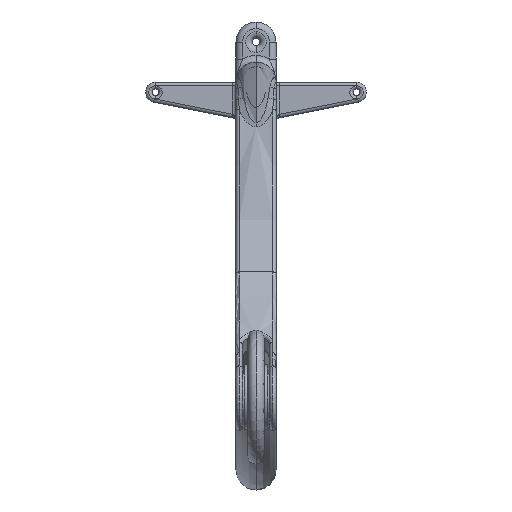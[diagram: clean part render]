
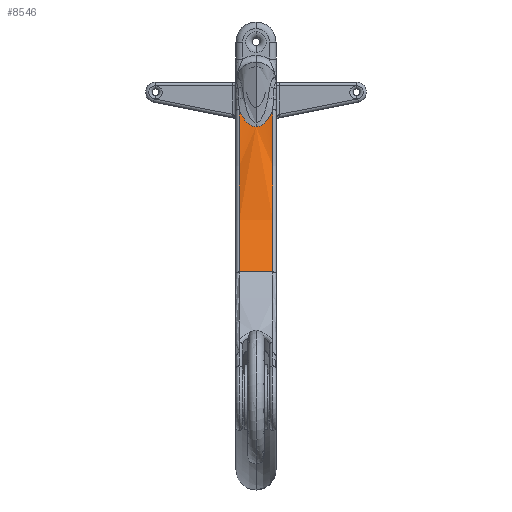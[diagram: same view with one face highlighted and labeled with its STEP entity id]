
A CAD part, front view. The second image highlights one B-rep face of the part: STEP entity #8546.
In plain terms, the highlighted cylindrical face has radius 59 mm (diameter 118 mm), a partial arc.
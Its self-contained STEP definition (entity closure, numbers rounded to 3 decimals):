
#296 = ORIENTED_EDGE ( 'NONE', *, *, #9531, .T. ) ;
#612 = CARTESIAN_POINT ( 'NONE',  ( -2.5, -57., -4. ) ) ;
#732 = CIRCLE ( 'NONE', #19920, 59. ) ;
#1113 = ORIENTED_EDGE ( 'NONE', *, *, #17224, .T. ) ;
#1598 = CARTESIAN_POINT ( 'NONE',  ( -0.159, 1.729, -9.651 ) ) ;
#1922 = ORIENTED_EDGE ( 'NONE', *, *, #21025, .T. ) ;
#3406 = CARTESIAN_POINT ( 'NONE',  ( -0.758, 1.747, -9.459 ) ) ;
#3872 = DIRECTION ( 'NONE',  ( 0., 0., -1. ) ) ;
#4433 = CARTESIAN_POINT ( 'NONE',  ( -2.5, -4.711, -31.329 ) ) ;
#4528 = CARTESIAN_POINT ( 'NONE',  ( 0.159, 1.729, -9.651 ) ) ;
#4930 = VERTEX_POINT ( 'NONE', #8683 ) ;
#5126 = CARTESIAN_POINT ( 'NONE',  ( -1.38, 1.789, -8.99 ) ) ;
#5240 = EDGE_CURVE ( 'NONE', #19241, #8141, #6548, .T. ) ;
#5704 = DIRECTION ( 'NONE',  ( -1., 0., 0. ) ) ;
#5855 = B_SPLINE_CURVE_WITH_KNOTS ( 'NONE', 3,
 ( #18523, #1598, #15187, #13557, #3406, #15266, #5126, #6856, #18677, #20355, #11561, #20724 ),
 .UNSPECIFIED., .F., .F.,
 ( 4, 2, 2, 2, 2, 4 ),
 ( 0., 0., 0.001, 0.002, 0.003, 0.004 ),
 .UNSPECIFIED. ) ;
#6326 = AXIS2_PLACEMENT_3D ( 'NONE', #14553, #7311, #11209 ) ;
#6379 = CARTESIAN_POINT ( 'NONE',  ( 1.948, 1.848, -8.242 ) ) ;
#6548 = CIRCLE ( 'NONE', #12935, 59. ) ;
#6856 = CARTESIAN_POINT ( 'NONE',  ( -1.777, 1.828, -8.506 ) ) ;
#6879 = LINE ( 'NONE', #18422, #18005 ) ;
#7311 = DIRECTION ( 'NONE',  ( 1., 0., 0. ) ) ;
#8082 = CARTESIAN_POINT ( 'NONE',  ( 1.48, 1.799, -8.868 ) ) ;
#8084 = CARTESIAN_POINT ( 'NONE',  ( -2.5, 1.917, -7.129 ) ) ;
#8141 = VERTEX_POINT ( 'NONE', #4433 ) ;
#8546 = ADVANCED_FACE ( 'NONE', ( #11373 ), #19056, .F. ) ;
#8655 = CARTESIAN_POINT ( 'NONE',  ( 2.5, -4.711, -31.329 ) ) ;
#8683 = CARTESIAN_POINT ( 'NONE',  ( 2.5, 1.917, -7.129 ) ) ;
#9531 = EDGE_CURVE ( 'NONE', #4930, #11920, #12106, .T. ) ;
#9747 = CARTESIAN_POINT ( 'NONE',  ( 0.756, 1.747, -9.46 ) ) ;
#9954 = EDGE_LOOP ( 'NONE', ( #1922, #21293, #10866, #1113, #296 ) ) ;
#10262 = EDGE_CURVE ( 'NONE', #8141, #15526, #6879, .T. ) ;
#10759 = CARTESIAN_POINT ( 'NONE',  ( 2.5, -57., -4. ) ) ;
#10866 = ORIENTED_EDGE ( 'NONE', *, *, #10262, .T. ) ;
#11209 = DIRECTION ( 'NONE',  ( 0., 0., -1. ) ) ;
#11320 = CARTESIAN_POINT ( 'NONE',  ( 1.02, 1.762, -9.294 ) ) ;
#11373 = FACE_OUTER_BOUND ( 'NONE', #9954, .T. ) ;
#11463 = CARTESIAN_POINT ( 'NONE',  ( 0.313, 1.731, -9.626 ) ) ;
#11561 = CARTESIAN_POINT ( 'NONE',  ( -2.382, 1.902, -7.416 ) ) ;
#11920 = VERTEX_POINT ( 'NONE', #17542 ) ;
#12106 = B_SPLINE_CURVE_WITH_KNOTS ( 'NONE', 3,
 ( #14669, #21328, #16293, #6379, #18211, #8082, #19679, #18281, #11320, #9747, #21599, #11463, #4528, #18012 ),
 .UNSPECIFIED., .F., .F.,
 ( 4, 2, 2, 2, 2, 2, 4 ),
 ( 0.002, 0.003, 0.003, 0.004, 0.004, 0.005, 0.005 ),
 .UNSPECIFIED. ) ;
#12935 = AXIS2_PLACEMENT_3D ( 'NONE', #612, #5704, #19310 ) ;
#13557 = CARTESIAN_POINT ( 'NONE',  ( -0.614, 1.74, -9.529 ) ) ;
#14004 = DIRECTION ( 'NONE',  ( 1., 0., 0. ) ) ;
#14553 = CARTESIAN_POINT ( 'NONE',  ( -3., -57., -4. ) ) ;
#14669 = CARTESIAN_POINT ( 'NONE',  ( 2.5, 1.917, -7.129 ) ) ;
#15187 = CARTESIAN_POINT ( 'NONE',  ( -0.316, 1.731, -9.625 ) ) ;
#15266 = CARTESIAN_POINT ( 'NONE',  ( -1.154, 1.77, -9.209 ) ) ;
#15401 = DIRECTION ( 'NONE',  ( 1., 0., 0. ) ) ;
#15526 = VERTEX_POINT ( 'NONE', #8655 ) ;
#16293 = CARTESIAN_POINT ( 'NONE',  ( 2.25, 1.885, -7.697 ) ) ;
#17224 = EDGE_CURVE ( 'NONE', #15526, #4930, #732, .T. ) ;
#17542 = CARTESIAN_POINT ( 'NONE',  ( 0., 1.729, -9.651 ) ) ;
#18005 = VECTOR ( 'NONE', #15401, 1000. ) ;
#18012 = CARTESIAN_POINT ( 'NONE',  ( 0., 1.729, -9.651 ) ) ;
#18211 = CARTESIAN_POINT ( 'NONE',  ( 1.776, 1.828, -8.507 ) ) ;
#18281 = CARTESIAN_POINT ( 'NONE',  ( 1.144, 1.771, -9.196 ) ) ;
#18422 = CARTESIAN_POINT ( 'NONE',  ( -3., -4.711, -31.329 ) ) ;
#18523 = CARTESIAN_POINT ( 'NONE',  ( 0., 1.729, -9.651 ) ) ;
#18677 = CARTESIAN_POINT ( 'NONE',  ( -1.948, 1.848, -8.242 ) ) ;
#19056 = CYLINDRICAL_SURFACE ( 'NONE', #6326, 59. ) ;
#19241 = VERTEX_POINT ( 'NONE', #8084 ) ;
#19310 = DIRECTION ( 'NONE',  ( 0., 0., -1. ) ) ;
#19679 = CARTESIAN_POINT ( 'NONE',  ( 1.374, 1.789, -8.982 ) ) ;
#19920 = AXIS2_PLACEMENT_3D ( 'NONE', #10759, #14004, #3872 ) ;
#20355 = CARTESIAN_POINT ( 'NONE',  ( -2.25, 1.885, -7.696 ) ) ;
#20724 = CARTESIAN_POINT ( 'NONE',  ( -2.5, 1.917, -7.129 ) ) ;
#21025 = EDGE_CURVE ( 'NONE', #11920, #19241, #5855, .T. ) ;
#21293 = ORIENTED_EDGE ( 'NONE', *, *, #5240, .T. ) ;
#21328 = CARTESIAN_POINT ( 'NONE',  ( 2.381, 1.902, -7.416 ) ) ;
#21599 = CARTESIAN_POINT ( 'NONE',  ( 0.613, 1.74, -9.53 ) ) ;
